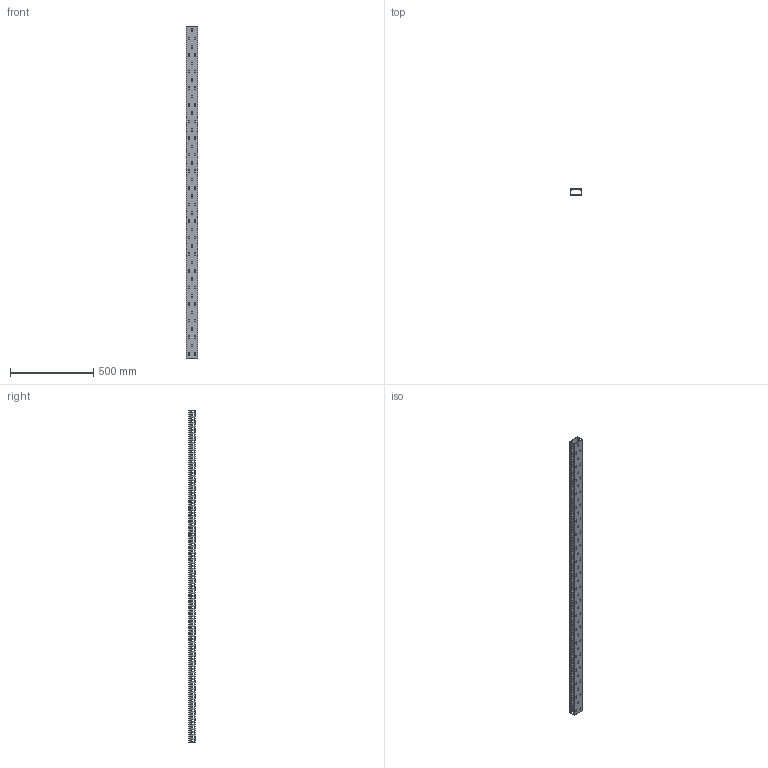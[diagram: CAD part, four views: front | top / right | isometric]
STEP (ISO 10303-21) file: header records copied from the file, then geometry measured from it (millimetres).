
FILE_DESCRIPTION (( 'STEP AP214' ), '1' );
FILE_NAME ('KD-74-20-H.STEP', '2020-02-19T00:50:35', ( '' ), ( '' ), 'SwSTEP 2.0', 'SolidWorks 2018', '' );
FILE_SCHEMA (( 'AUTOMOTIVE_DESIGN' ));
Length unit declared in the file: millimetre
Products named in the file (3): KD-74-20-cover; KD-74-20-H-body; KD-74-20-H
Assembly tree (2 placements, depth 2):
  KD-74-20-H
    KD-74-20-H-body
    KD-74-20-cover
Bounding box: 70 x 40.17 x 2000 mm (x, y, z)
Volume: 759587.5 mm3; surface area: 954718 mm2
Topology: 2 solids, 2 shells, 1963 faces, 5877 edges, 3918 vertices
Faces by surface type: cylinder 1017, plane 946
Entity records: 67875 total; most frequent: DIRECTION 11847, CARTESIAN_POINT 11763, ORIENTED_EDGE 11754, EDGE_CURVE 5877, AXIS2_PLACEMENT_3D 4002, VERTEX_POINT 3918, VECTOR 3843, LINE 3843
